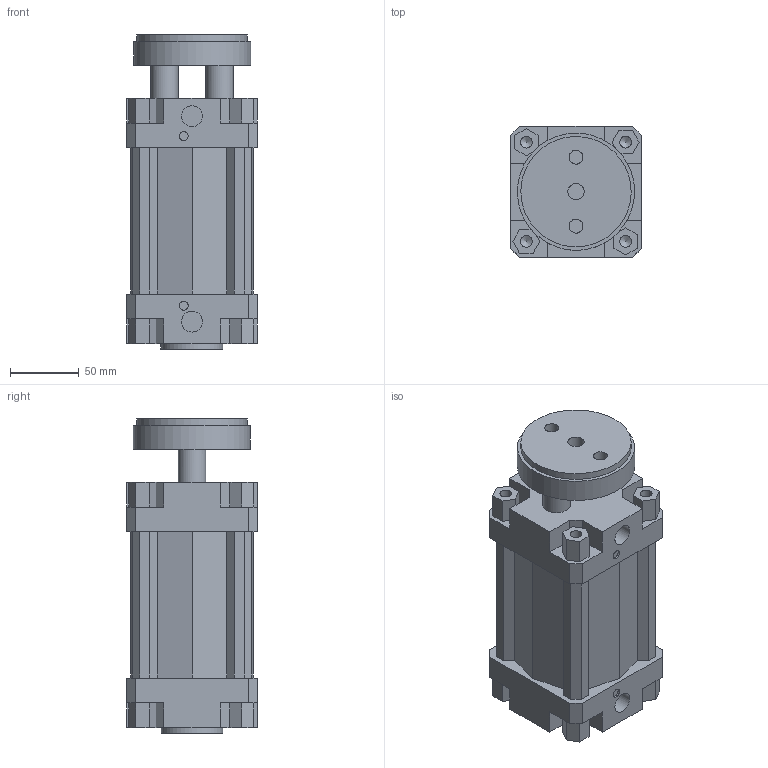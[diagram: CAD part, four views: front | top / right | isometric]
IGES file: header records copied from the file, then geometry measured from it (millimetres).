
Global section: file name: 132#_080_0050_01; native system: Autodesk Inventor 2014; preprocessor: unknown; author: A. Manieri; date: 20161006.162311; units: millimetre
Bounding box: 95 x 95 x 228 mm (x, y, z)
Volume: 1214209.5 mm3; surface area: 197547.3 mm2
Topology: 2 solids, 2 shells, 180 faces, 491 edges, 335 vertices
Faces by surface type: bspline 180
